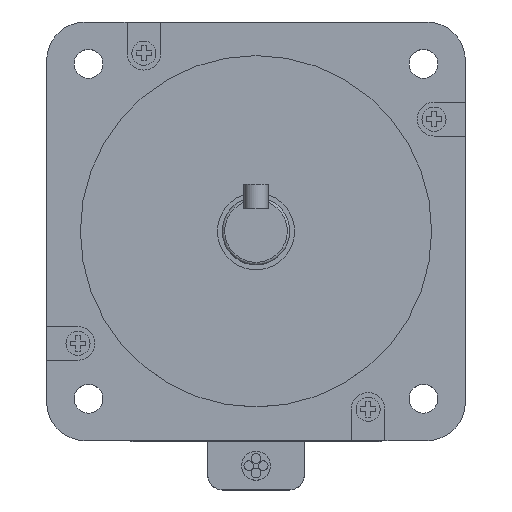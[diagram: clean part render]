
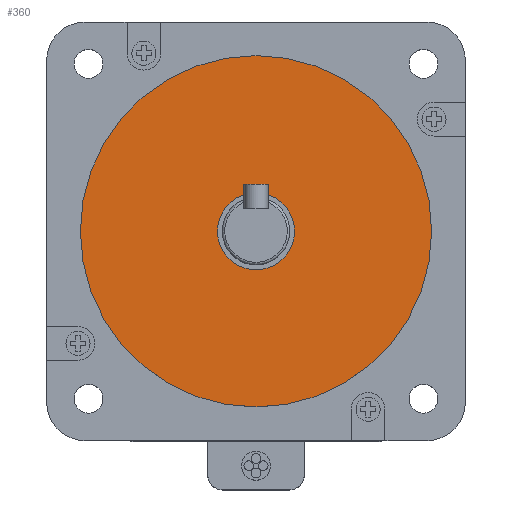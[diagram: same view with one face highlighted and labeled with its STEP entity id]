
A CAD part, top view. The second image highlights one B-rep face of the part: STEP entity #360.
In plain terms, the highlighted planar face has unit normal (0, 0, 1).
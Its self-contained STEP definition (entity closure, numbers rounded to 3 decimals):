
#360=ADVANCED_FACE('',(#710,#711),#558,.T.);
#558=PLANE('',#3898);
#710=FACE_BOUND('',#794,.T.);
#711=FACE_BOUND('',#795,.T.);
#794=EDGE_LOOP('',(#1375));
#795=EDGE_LOOP('',(#1376));
#1095=CIRCLE('',#3893,36.513);
#1096=CIRCLE('',#3895,8.);
#1375=ORIENTED_EDGE('',*,*,#2729,.T.);
#1376=ORIENTED_EDGE('',*,*,#2730,.F.);
#2353=VERTEX_POINT('',#5660);
#2354=VERTEX_POINT('',#5663);
#2729=EDGE_CURVE('',#2353,#2353,#1095,.T.);
#2730=EDGE_CURVE('',#2354,#2354,#1096,.T.);
#3893=AXIS2_PLACEMENT_3D('',#5659,#4458,#4459);
#3895=AXIS2_PLACEMENT_3D('',#5662,#4462,#4463);
#3898=AXIS2_PLACEMENT_3D('',#5667,#4468,#4469);
#4458=DIRECTION('',(0.,0.,1.));
#4459=DIRECTION('',(1.,0.,0.));
#4462=DIRECTION('',(0.,0.,1.));
#4463=DIRECTION('',(1.,0.,0.));
#4468=DIRECTION('',(0.,0.,1.));
#4469=DIRECTION('',(1.,0.,0.));
#5659=CARTESIAN_POINT('',(0.,0.,2.));
#5660=CARTESIAN_POINT('',(36.513,0.,2.));
#5662=CARTESIAN_POINT('',(0.,0.,2.));
#5663=CARTESIAN_POINT('',(8.,0.,2.));
#5667=CARTESIAN_POINT('',(0.,0.,2.));
